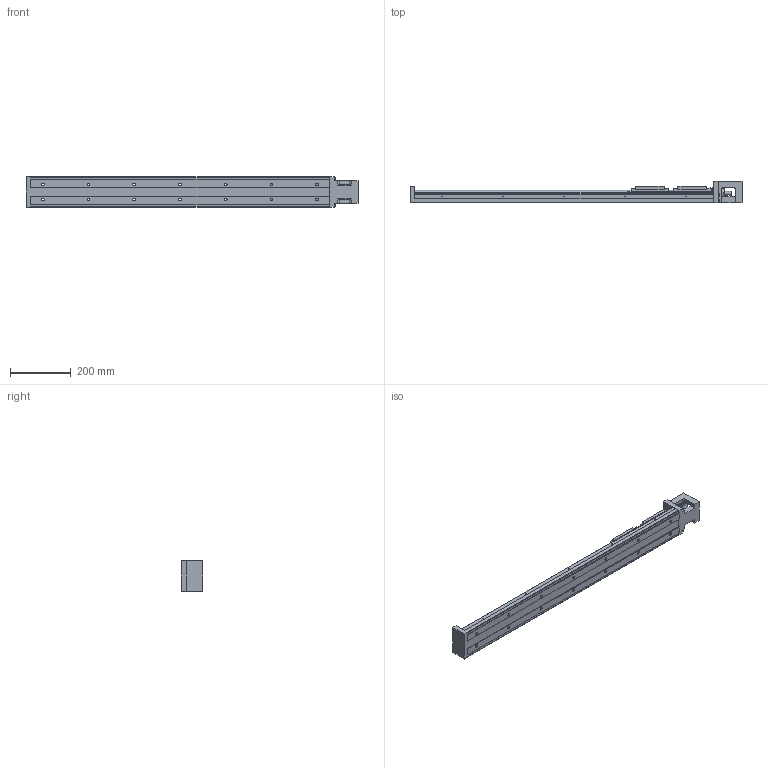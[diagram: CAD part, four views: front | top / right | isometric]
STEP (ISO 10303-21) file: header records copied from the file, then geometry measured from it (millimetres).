
FILE_DESCRIPTION( ( '' ), '1' );
FILE_NAME( '//partserver001.servicenet/client_exchange/iodir/jobs/output/wkb20113471_no9/STEP/kk10020p_980a2_f0_2_03.stp', '2009-11-12T12:46:04', ( '' ), ( '' ), ' ', ' ', ' ' );
FILE_SCHEMA( ( 'CONFIG_CONTROL_DESIGN' ) );
Length unit declared in the file: millimetre
Products named in the file (4): 1; 2; 3; 4
Bounding box: 1089 x 72 x 100 mm (x, y, z)
Volume: 3029233.6 mm3; surface area: 526874.7 mm2
Topology: 4 solids, 4 shells, 633 faces, 1620 edges, 1010 vertices
Faces by surface type: plane 258, cylinder 223, cone 136, torus 16
Entity records: 19080 total; most frequent: DIRECTION 3420, CARTESIAN_POINT 3271, ORIENTED_EDGE 3112, EDGE_CURVE 1556, AXIS2_PLACEMENT_3D 1231, VERTEX_POINT 1010, LINE 958, VECTOR 958
